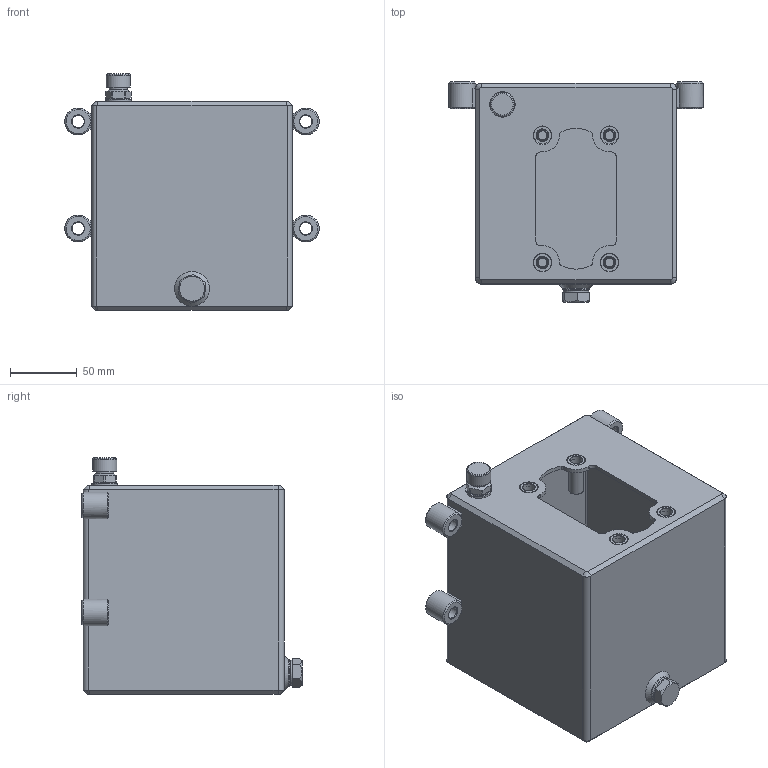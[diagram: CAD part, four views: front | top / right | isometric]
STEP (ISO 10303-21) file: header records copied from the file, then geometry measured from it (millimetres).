
FILE_DESCRIPTION(/* description */ ('Unknown'),/* implementation_level */ '2;1');
FILE_NAME(/* name */ 'SR03FE150',/* time_stamp */ '2024-11-28T10:29:15+01:00',/* author */ ('Unknown'),/* organization */ ('Unknown'),/* preprocessor_version */ 'ST-DEVELOPER v19.4',/* originating_system */ 'Solid Edge',/* authorisation */ 'Unknown');
FILE_SCHEMA (('AUTOMOTIVE_DESIGN {1 0 10303 214 3 1 1}'));
Length unit declared in the file: millimetre
Products named in the file (1): SR03FE150
Bounding box: 190 x 164.5 x 176.6 mm (x, y, z)
Volume: 409918.2 mm3; surface area: 271960.5 mm2
Topology: 2 solids, 2 shells, 263 faces, 616 edges, 383 vertices
Faces by surface type: plane 125, cylinder 73, cone 46, torus 19
Full cylindrical faces by diameter (mm): 5.8 x1, 6.647 x8, 9 x4, 9.15 x4, 10.5 x1, 10.88 x4, 10.9 x4, 13.157 x1, 13.2 x4, 13.5 x1, 15 x1, 16.8 x1, 17 x1, 18 x1, 19 x2, 20 x6, 20.1 x1
Entity records: 8471 total; most frequent: DIRECTION 1225, CARTESIAN_POINT 1144, ORIENTED_EDGE 944, AXIS2_PLACEMENT_3D 503, EDGE_CURVE 472, EDGE_LOOP 402, FACE_BOUND 402, VERTEX_POINT 340
